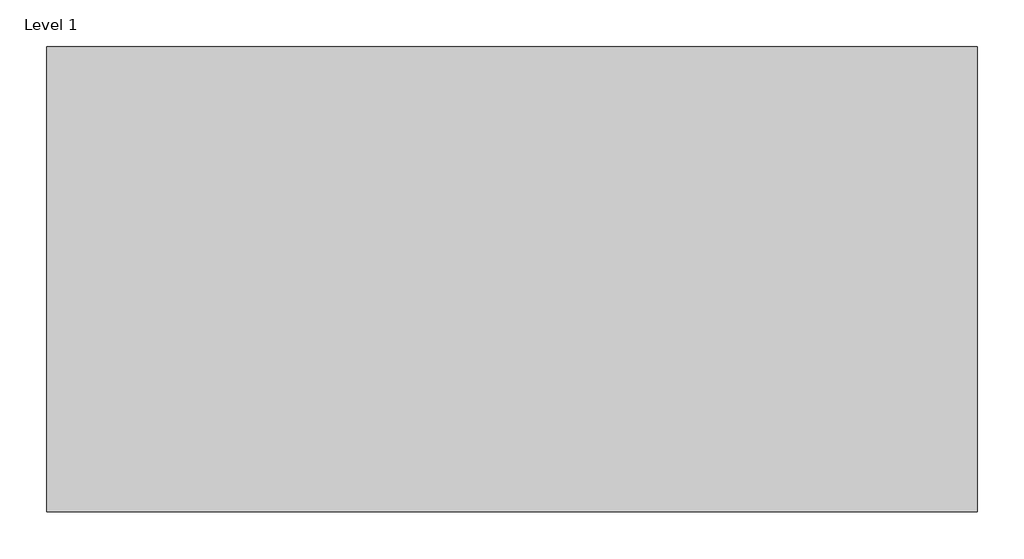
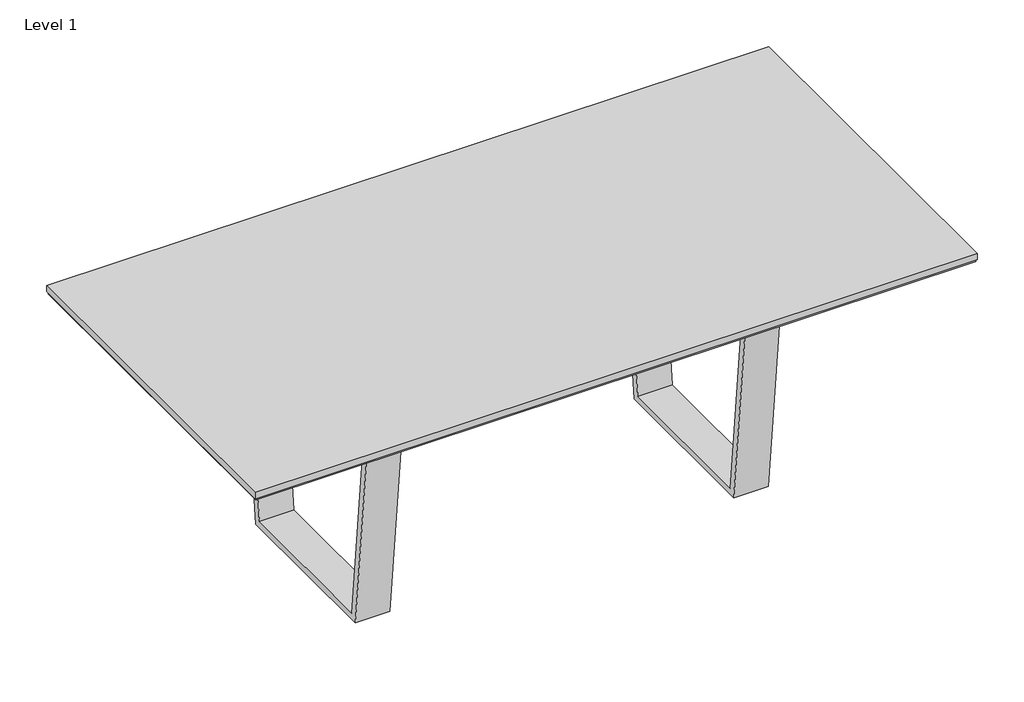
# One storey: 3 proxies.
"""IFC4 building model written with IfcOpenShell, lengths in millimetres."""

from ifc_helpers import new_model, si_unit, origin, place, context, project, spatial, transform, mapped, element, save
from components import generic_models_41355979, generic_models_f785f9ae

model = new_model("IFC4")

# Units and contexts
model_context = context("Model", 3, world=origin())
ifc_project = project(units=[si_unit("LENGTHUNIT", "METRE", prefix="MILLI")], contexts=[model_context])

# Site, building, storey
site = spatial("IfcSite", under=ifc_project)
building = spatial("IfcBuilding", under=site)
storey = spatial("IfcBuildingStorey", under=building, Name="Level 1", Elevation=0.0)

# Proxies
placement = place(None, origin())
generic_models_shape = generic_models_41355979(model_context)
element("IfcBuildingElementProxy", 1, Name="IMPRESS^TABLE 5_ANGLE LOOP BASE-KEEL PLATES", ObjectType="IMPRESS^TABLE 5_ANGLE LOOP BASE-KEEL PLATES", at=placement, inside=storey, context=model_context, shape_type="MappedRepresentation", body=[
    mapped(generic_models_shape, transform((1676.4, -279.4, -679.45), x_axis=(0.0, -1.0, 0.0), y_axis=(0.0, 0.0, 1.0), z_axis=(-1.0, 0.0, 0.0))),
])
element("IfcBuildingElementProxy", 2, Name="IMPRESS^TABLE 5_ANGLE LOOP BASE-KEEL PLATES", ObjectType="IMPRESS^TABLE 5_ANGLE LOOP BASE-KEEL PLATES", at=placement, inside=storey, context=model_context, shape_type="MappedRepresentation", body=[
    mapped(generic_models_shape, transform((457.2, -787.4, -679.45), x_axis=(0.0, 1.0, 0.0), y_axis=(0.0, 0.0, 1.0), z_axis=(1.0, 0.0, 0.0))),
])
generic_models_2_shape = generic_models_f785f9ae(model_context)
element("IfcBuildingElementProxy", 3, Name="IMPRESS^TABLE 5_42x84 RECT-PARTS SOLID", ObjectType="IMPRESS^TABLE 5_42x84 RECT-PARTS SOLID", at=placement, inside=storey, context=model_context, shape_type="MappedRepresentation", body=[
    mapped(generic_models_2_shape, transform((2130.425, -1063.625, 0.0), x_axis=(1.0, 0.0, 0.0), y_axis=(0.0, 0.0, 1.0), z_axis=(0.0, -1.0, 0.0))),
])

save(model, "model.ifc")
